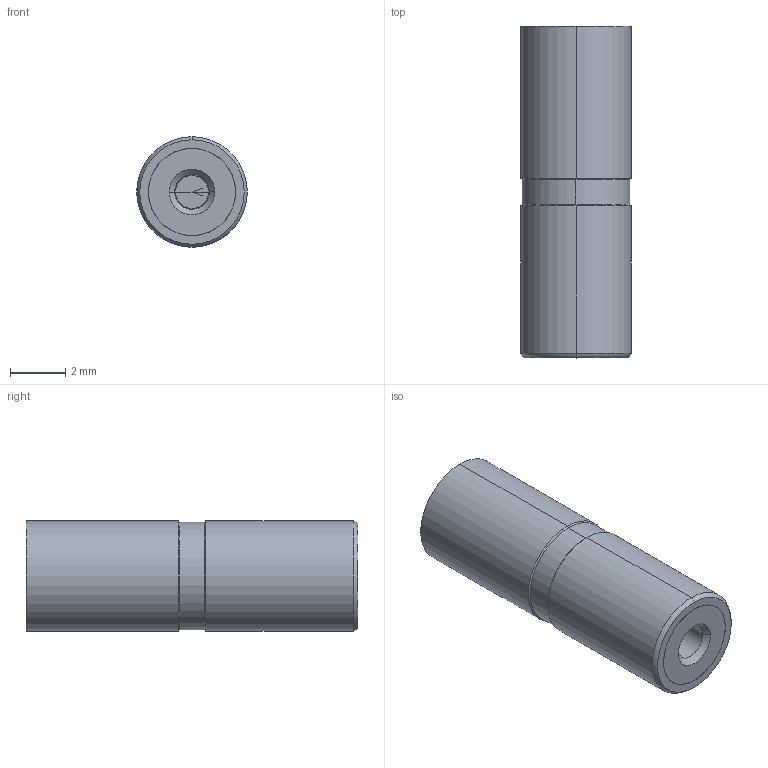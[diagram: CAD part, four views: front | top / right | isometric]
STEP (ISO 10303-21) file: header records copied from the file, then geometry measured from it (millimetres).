
FILE_DESCRIPTION (( 'STEP AP214' ), '1' );
FILE_NAME ('FP 042200.STEP', '2015-02-27T09:17:57', ( '' ), ( '' ), 'SwSTEP 2.0', 'SolidWorks 2014', '' );
FILE_SCHEMA (( 'AUTOMOTIVE_DESIGN' ));
Length unit declared in the file: millimetre
Products named in the file (6): IA 2275SF; FP 042200-1; 9FP 042200; FP 042200; FA 042200-2; FA 042200-3
Assembly tree (5 placements, depth 2):
  FP 042200
    9FP 042200
    IA 2275SF
    FA 042200-3
    FA 042200-2
    FP 042200-1
Bounding box: 4 x 12 x 4 mm (x, y, z)
Volume: 122.4 mm3; surface area: 512.4 mm2
Topology: 5 solids, 5 shells, 94 faces, 194 edges, 119 vertices
Faces by surface type: cylinder 40, plane 28, cone 20, bspline 4, torus 2
Entity records: 5240 total; most frequent: CARTESIAN_POINT 2863, DIRECTION 484, ORIENTED_EDGE 384, AXIS2_PLACEMENT_3D 202, EDGE_CURVE 192, VERTEX_POINT 119, EDGE_LOOP 111, CIRCLE 104
